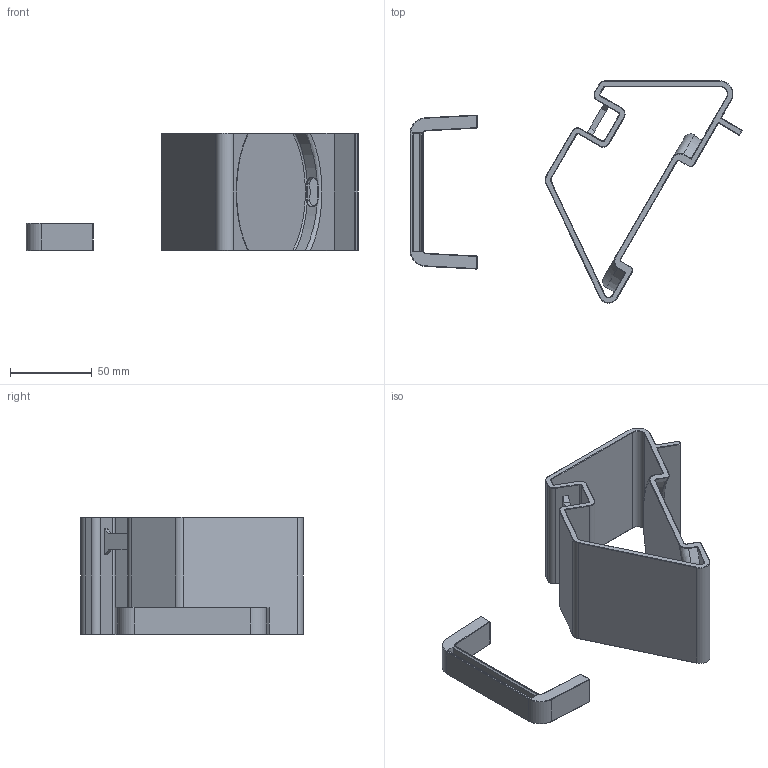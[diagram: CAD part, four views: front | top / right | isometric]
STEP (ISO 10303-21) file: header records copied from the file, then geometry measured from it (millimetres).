
FILE_DESCRIPTION(/* description */ (''),/* implementation_level */ '2;1');
FILE_NAME(/* name */ '/Users/lukepillans/3D Models/Phone stand/CIrcular charger/RC1/Phone Stand Circular Charger v4.step',/* time_stamp */ '2021-03-26T17:40:35-07:00',/* author */ (''),/* organization */ (''),/* preprocessor_version */ 'ST-DEVELOPER v18.1',/* originating_system */ 'Autodesk Translation Framework v9.7.0.1280',/* authorisation */ '');
FILE_SCHEMA (('AUTOMOTIVE_DESIGN { 1 0 10303 214 3 1 1 }'));
Length unit declared in the file: millimetre
Products named in the file (3): Phone Stand Circular Charger; Component3; Component2
Assembly tree (2 placements, depth 2):
  Phone Stand Circular Charger
    Component3
    Component2
Bounding box: 203.21 x 135.97 x 72 mm (x, y, z)
Volume: 129315.3 mm3; surface area: 77999.3 mm2
Topology: 2 solids, 2 shells, 252 faces, 607 edges, 350 vertices
Faces by surface type: plane 125, cone 52, cylinder 35, bspline 32, torus 8
Entity records: 8487 total; most frequent: CARTESIAN_POINT 2776, ORIENTED_EDGE 1198, DIRECTION 1114, EDGE_CURVE 599, LINE 398, VECTOR 398, AXIS2_PLACEMENT_3D 358, VERTEX_POINT 350
